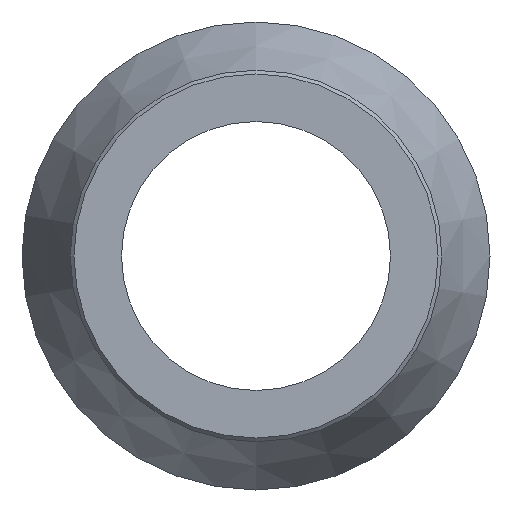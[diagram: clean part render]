
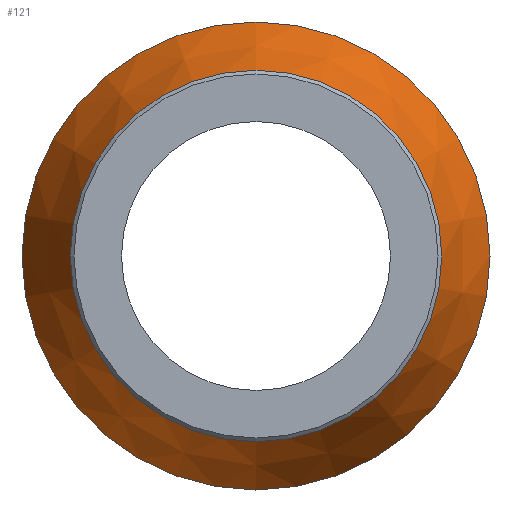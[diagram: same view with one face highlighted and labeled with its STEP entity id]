
A CAD part, left-side view. The second image highlights one B-rep face of the part: STEP entity #121.
In plain terms, the highlighted conical face has half-angle 24.905 degrees and reference radius 31.5 mm.
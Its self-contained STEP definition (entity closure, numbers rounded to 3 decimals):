
#22=CONICAL_SURFACE('',#146,31.5,0.435);
#28=ORIENTED_EDGE('',*,*,#48,.F.);
#29=ORIENTED_EDGE('',*,*,#47,.T.);
#47=EDGE_CURVE('',#57,#57,#67,.T.);
#48=EDGE_CURVE('',#58,#58,#68,.T.);
#57=VERTEX_POINT('',#210);
#58=VERTEX_POINT('',#213);
#67=CIRCLE('',#145,31.5);
#68=CIRCLE('',#147,25.);
#78=EDGE_LOOP('',(#28));
#79=EDGE_LOOP('',(#29));
#98=FACE_BOUND('',#78,.T.);
#99=FACE_BOUND('',#79,.T.);
#121=ADVANCED_FACE('',(#98,#99),#22,.T.);
#145=AXIS2_PLACEMENT_3D('',#209,#169,#170);
#146=AXIS2_PLACEMENT_3D('',#211,#171,#172);
#147=AXIS2_PLACEMENT_3D('',#212,#173,#174);
#169=DIRECTION('',(-1.,0.,0.));
#170=DIRECTION('',(0.,0.,1.));
#171=DIRECTION('',(1.,0.,0.));
#172=DIRECTION('',(0.,0.,-1.));
#173=DIRECTION('',(-1.,0.,0.));
#174=DIRECTION('',(0.,0.,1.));
#209=CARTESIAN_POINT('',(7.,0.,0.));
#210=CARTESIAN_POINT('',(7.,0.,31.5));
#211=CARTESIAN_POINT('',(7.,0.,0.));
#212=CARTESIAN_POINT('',(-7.,0.,0.));
#213=CARTESIAN_POINT('',(-7.,0.,25.));
